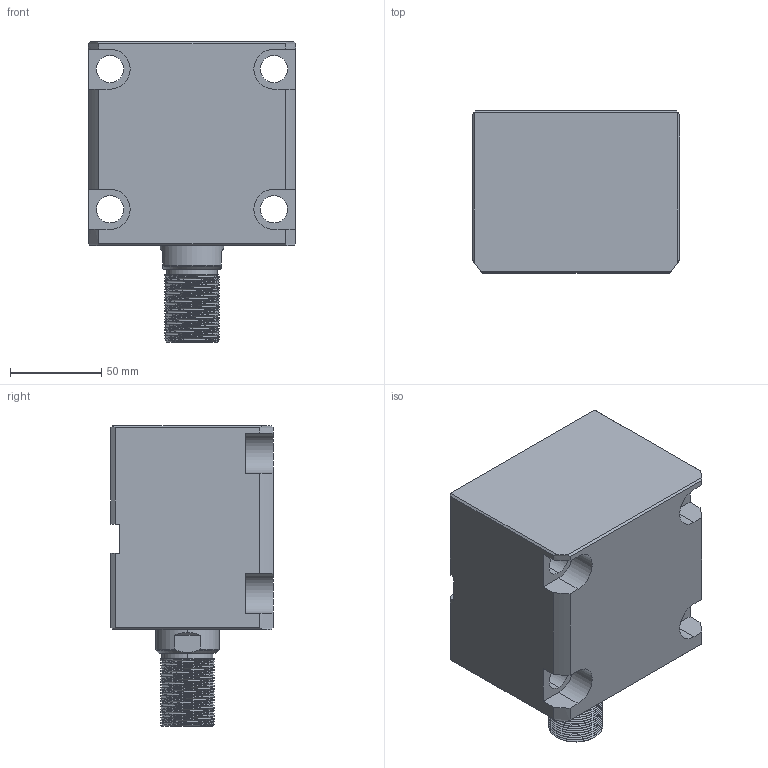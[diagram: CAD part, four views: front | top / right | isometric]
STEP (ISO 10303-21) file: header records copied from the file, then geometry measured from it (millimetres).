
FILE_DESCRIPTION (( 'STEP AP214' ), '1' );
FILE_NAME ('chtb-lam63x45w_asm.STEP', '2018-05-22T03:36:58', ( 'Windows' ), ( 'Microsoft' ), 'SwSTEP 2.0', 'SolidWorks 2015', '' );
FILE_SCHEMA (( 'AUTOMOTIVE_DESIGN' ));
Length unit declared in the file: millimetre
Products named in the file (4): CHTB-LAM63X45NBT; CHTB63X45WHSG; CHTB-63QG; chtb-lam63x45w_asm
Assembly tree (3 placements, depth 2):
  chtb-lam63x45w_asm
    CHTB-63QG
    CHTB63X45WHSG
    CHTB-LAM63X45NBT
Bounding box: 114 x 89 x 165 mm (x, y, z)
Volume: 986727.6 mm3; surface area: 147195.4 mm2
Topology: 3 solids, 3 shells, 229 faces, 681 edges, 463 vertices
Faces by surface type: cylinder 145, plane 54, bspline 15, cone 9, torus 6
Entity records: 23331 total; most frequent: CARTESIAN_POINT 17747, ORIENTED_EDGE 1354, DIRECTION 909, EDGE_CURVE 677, VERTEX_POINT 463, AXIS2_PLACEMENT_3D 330, EDGE_LOOP 252, VECTOR 249
